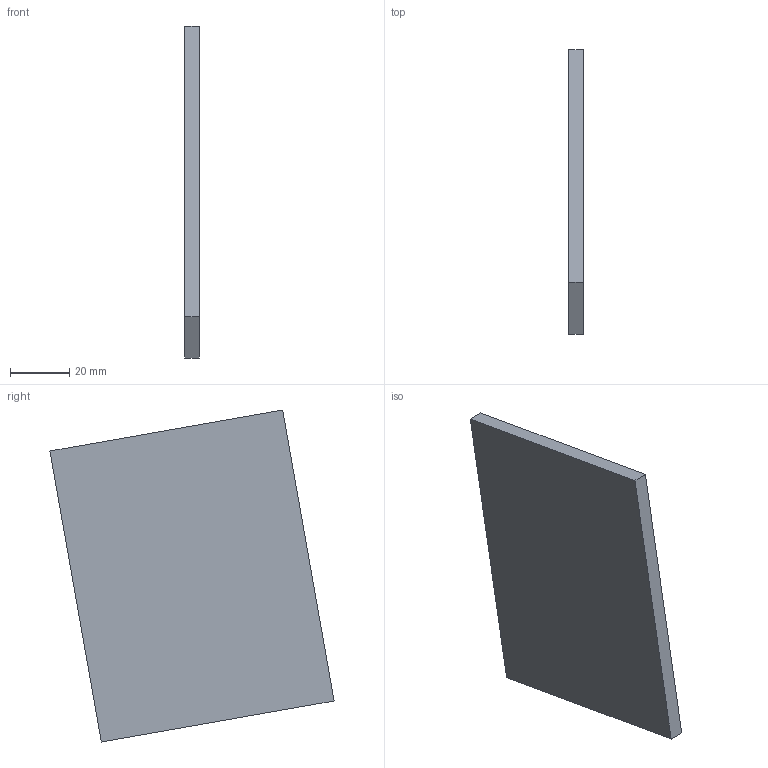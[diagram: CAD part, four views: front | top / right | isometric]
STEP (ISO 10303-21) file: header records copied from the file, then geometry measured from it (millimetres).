
FILE_DESCRIPTION(('golf model'),'2;1');
FILE_NAME('golf','',(''),(''),'golf_step_io','golf','');
FILE_SCHEMA(('AUTOMOTIVE_DESIGN { 1 0 10303 214 1 1 1 1 }'));
Length unit declared in the file: millimetre
Products named in the file (2): ASSEMBLY; bed.beam_cap_bottom_0
Assembly tree (1 placements, depth 2):
  ASSEMBLY
    bed.beam_cap_bottom_0
Bounding box: 5 x 96.15 x 112.37 mm (x, y, z)
Volume: 40000 mm3; surface area: 17800 mm2
Topology: 1 solids, 1 shells, 6 faces, 12 edges, 8 vertices
Faces by surface type: plane 6
Entity records: 190 total; most frequent: CARTESIAN_POINT 28, DIRECTION 28, ORIENTED_EDGE 24, VECTOR 12, LINE 12, EDGE_CURVE 12, AXIS2_PLACEMENT_3D 8, VERTEX_POINT 8
